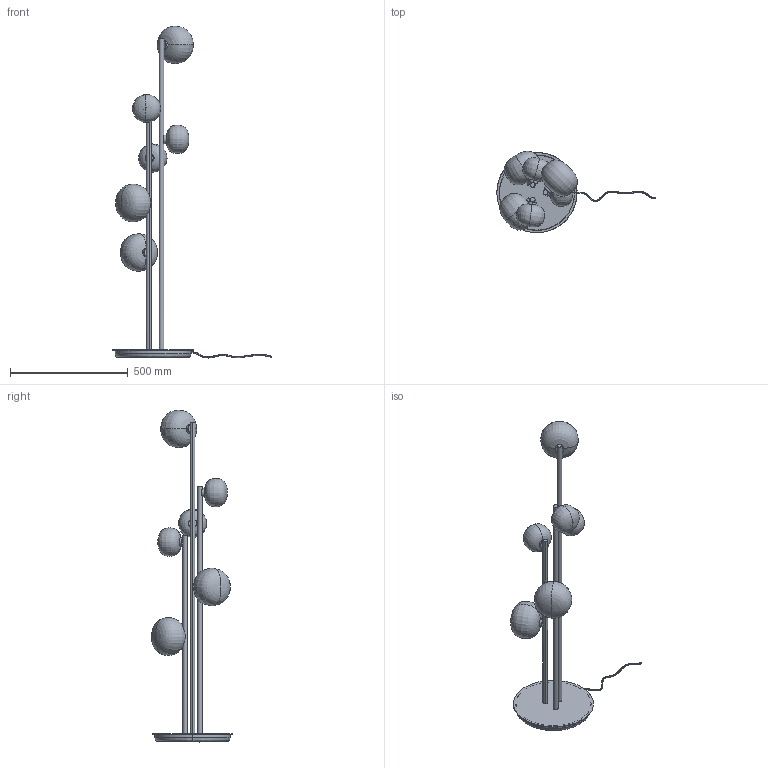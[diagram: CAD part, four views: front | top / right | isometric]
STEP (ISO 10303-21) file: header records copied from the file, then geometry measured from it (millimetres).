
FILE_DESCRIPTION(/* description */ (''),/* implementation_level */ '2;1');
FILE_NAME(/* name */ '5L76CL~B',/* time_stamp */ '2021-11-02T10:29:58+01:00',/* author */ (''),/* organization */ (''),/* preprocessor_version */ 'ST-DEVELOPER v15',/* originating_system */ '',/* authorisation */ '');
FILE_SCHEMA (('AUTOMOTIVE_DESIGN'));
Length unit declared in the file: millimetre
Products named in the file (1): Document
Bounding box: 671.12 x 344.57 x 1407.7 mm (x, y, z)
Volume: 2172017.7 mm3; surface area: 1866510.5 mm2
Topology: 26 solids, 27 shells, 220 faces, 587 edges, 360 vertices
Faces by surface type: bspline 220
Entity records: 43292 total; most frequent: CARTESIAN_POINT 36656, B_SPLINE_CURVE_WITH_KNOTS 1087, ORIENTED_EDGE 1086, PCURVE 1086, DEFINITIONAL_REPRESENTATION 1086, SURFACE_CURVE 544, EDGE_CURVE 544, VERTEX_POINT 358
